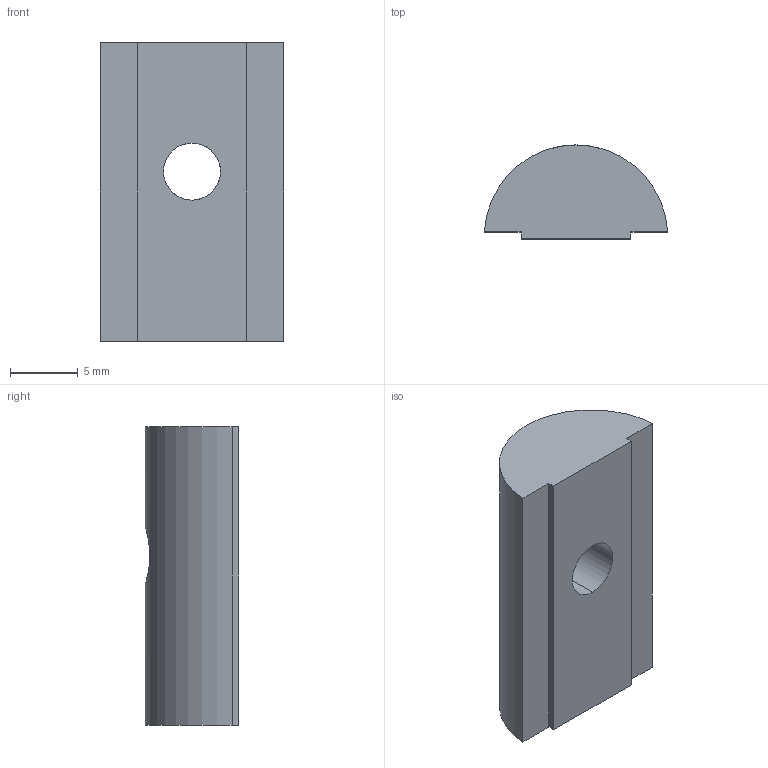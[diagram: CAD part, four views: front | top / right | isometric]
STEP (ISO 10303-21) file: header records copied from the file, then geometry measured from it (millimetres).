
FILE_DESCRIPTION (( 'STEP AP203' ), '1' );
FILE_NAME ('TCAN 5 Steel T-slot block M5 22mm (01-06-2021).STEP', '2021-06-01T06:39:18', ( '' ), ( '' ), 'SwSTEP 2.0', 'SolidWorks 2020', '' );
FILE_SCHEMA (( 'CONFIG_CONTROL_DESIGN' ));
Length unit declared in the file: millimetre
Products named in the file (1): TCAN 5 Steel T-slot block M5 22mm (01-06-2021)
Bounding box: 13.5 x 6.9 x 22 mm (x, y, z)
Volume: 1466.8 mm3; surface area: 973.3 mm2
Topology: 1 solids, 1 shells, 10 faces, 24 edges, 16 vertices
Faces by surface type: plane 7, cylinder 3
Entity records: 427 total; most frequent: CARTESIAN_POINT 109, ORIENTED_EDGE 48, DIRECTION 48, EDGE_CURVE 24, LINE 18, VECTOR 18, VERTEX_POINT 16, AXIS2_PLACEMENT_3D 15
